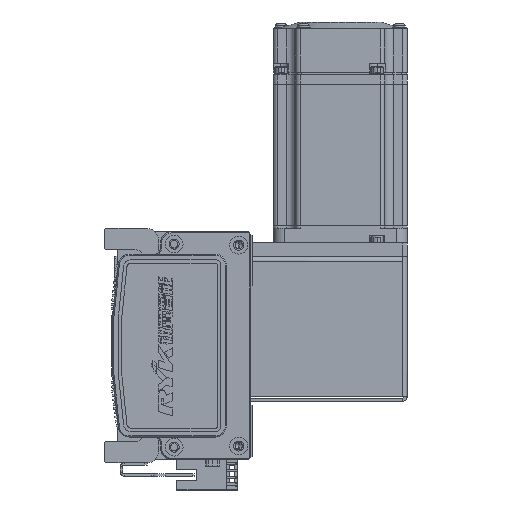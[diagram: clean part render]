
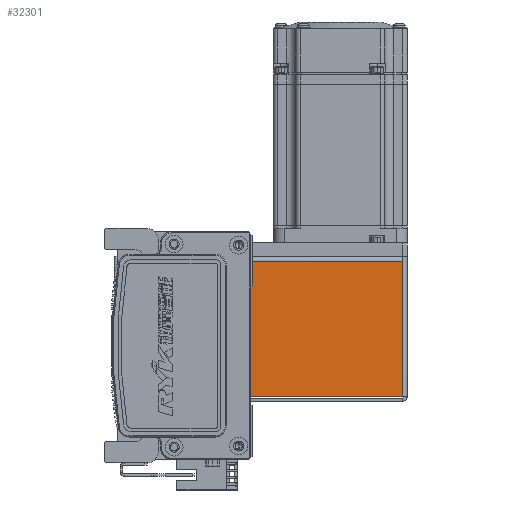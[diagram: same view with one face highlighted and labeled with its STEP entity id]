
A CAD part, left-side view. The second image highlights one B-rep face of the part: STEP entity #32301.
In plain terms, the highlighted planar face has unit normal (-1, 0, 0) as drawn and (0, 0, 1) by its records, which use the part's own axes.
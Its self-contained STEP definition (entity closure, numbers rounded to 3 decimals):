
#1897 = LINE ( 'NONE', #58694, #24201 ) ;
#2853 = ORIENTED_EDGE ( 'NONE', *, *, #51544, .F. ) ;
#6585 = EDGE_CURVE ( 'NONE', #17171, #13669, #59486, .T. ) ;
#10034 = DIRECTION ( 'NONE',  ( -1., 0., 0. ) ) ;
#10446 = VERTEX_POINT ( 'NONE', #27962 ) ;
#10772 = EDGE_LOOP ( 'NONE', ( #41363, #33080, #53199, #2853 ) ) ;
#10992 = EDGE_CURVE ( 'NONE', #45935, #10446, #1897, .T. ) ;
#11453 = CARTESIAN_POINT ( 'NONE',  ( 0., 72.5, 35. ) ) ;
#11635 = LINE ( 'NONE', #11453, #35614 ) ;
#13669 = VERTEX_POINT ( 'NONE', #50182 ) ;
#14707 = FACE_OUTER_BOUND ( 'NONE', #10772, .T. ) ;
#16697 = CARTESIAN_POINT ( 'NONE',  ( 30.263, 0.737, 35. ) ) ;
#17171 = VERTEX_POINT ( 'NONE', #30443 ) ;
#17356 = DIRECTION ( 'NONE',  ( 0., 1., 0. ) ) ;
#20468 = CARTESIAN_POINT ( 'NONE',  ( -32.5, 0.737, 35. ) ) ;
#24201 = VECTOR ( 'NONE', #48461, 1000. ) ;
#25023 = CARTESIAN_POINT ( 'NONE',  ( -30.293, 0.737, 35. ) ) ;
#25158 = CARTESIAN_POINT ( 'NONE',  ( 0., 0., 35. ) ) ;
#25378 = DIRECTION ( 'NONE',  ( 0., 0., -1. ) ) ;
#27962 = CARTESIAN_POINT ( 'NONE',  ( -30.293, 72.5, 35. ) ) ;
#30443 = CARTESIAN_POINT ( 'NONE',  ( 30.263, 0.737, 35. ) ) ;
#32301 = ADVANCED_FACE ( 'NONE', ( #14707 ), #60722, .F. ) ;
#33080 = ORIENTED_EDGE ( 'NONE', *, *, #62736, .T. ) ;
#35614 = VECTOR ( 'NONE', #62603, 1000. ) ;
#35668 = DIRECTION ( 'NONE',  ( -1., 0., 0. ) ) ;
#35915 = LINE ( 'NONE', #20468, #43102 ) ;
#36808 = AXIS2_PLACEMENT_3D ( 'NONE', #25158, #25378, #10034 ) ;
#41363 = ORIENTED_EDGE ( 'NONE', *, *, #6585, .T. ) ;
#42726 = VECTOR ( 'NONE', #17356, 1000. ) ;
#43102 = VECTOR ( 'NONE', #35668, 1000. ) ;
#45935 = VERTEX_POINT ( 'NONE', #25023 ) ;
#48461 = DIRECTION ( 'NONE',  ( 0., 1., 0. ) ) ;
#50182 = CARTESIAN_POINT ( 'NONE',  ( 30.263, 72.5, 35. ) ) ;
#51544 = EDGE_CURVE ( 'NONE', #17171, #45935, #35915, .T. ) ;
#53199 = ORIENTED_EDGE ( 'NONE', *, *, #10992, .F. ) ;
#58694 = CARTESIAN_POINT ( 'NONE',  ( -30.293, 0., 35. ) ) ;
#59486 = LINE ( 'NONE', #16697, #42726 ) ;
#60722 = PLANE ( 'NONE',  #36808 ) ;
#62603 = DIRECTION ( 'NONE',  ( -1., 0., 0. ) ) ;
#62736 = EDGE_CURVE ( 'NONE', #13669, #10446, #11635, .T. ) ;
